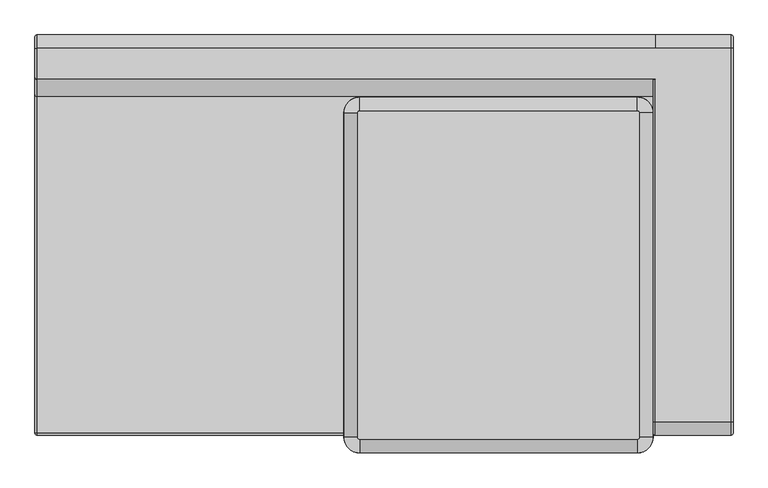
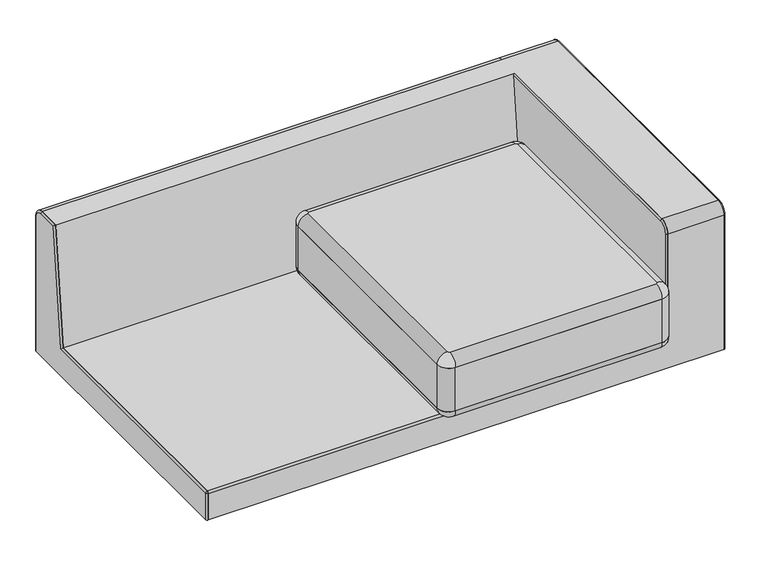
"""IFC4 building model written with IfcOpenShell, lengths in millimetres: furniture geometry, Sofa_Bensen_Neo_NEO25RIT : Sofa_Bensen_Neo_NEO25RIT."""

from ifc_helpers import new_model, si_unit, point, frame, frame_2d, origin, place, context, project, spatial, polyline, circle_curve, ellipse_curve, trimmed, segment, composite_curve, outline, extrude, source, transform, mapped, element, save
from ifc_brep_helpers import plane_surface, cylinder_surface, revolved_surface, advanced_brep


def furniture_131ba593(model_context):
    return source(origin(), model_context, "Body", "SolidModel", [
        advanced_brep(
        [(35.0, -490.001275, 289.4004127), (660.0, -490.001275, 289.4004127), (695.0, -455.001275, 289.4004127), (695.0, 274.998725, 289.4004127), (660.0, 309.998725, 289.4004127), (35.0, 309.998725, 289.4004127), (0.0, 274.998725, 289.4004127), (0.0, -455.001275, 289.4004127), (30.0, -455.001275, 259.4004127), (30.0, 274.998725, 259.4004127), (35.0, 279.998725, 259.4004127), (660.0, 279.998725, 259.4004127), (665.0, 274.998725, 259.4004127), (665.0, -455.001275, 259.4004127), (660.0, -460.001275, 259.4004127), (35.0, -460.001275, 259.4004127)],
        [
            (0, 1),
            (1, 2, circle_curve(frame((660.0, -455.001275, 289.4004127), z_axis=(0.0, 0.0, 1.0), x_axis=(0.0, -1.0, 0.0)), 35.0)),
            (2, 3),
            (3, 4, circle_curve(frame((660.0, 274.998725, 289.4004127), z_axis=(0.0, 0.0, 1.0), x_axis=(1.0, 0.0, 0.0)), 35.0)),
            (4, 5),
            (5, 6, circle_curve(frame((35.0, 274.998725, 289.4004127), z_axis=(0.0, 0.0, 1.0), x_axis=(0.0, 1.0, 0.0)), 35.0)),
            (6, 7),
            (7, 0, circle_curve(frame((35.0, -455.001275, 289.4004127), z_axis=(0.0, 0.0, 1.0), x_axis=(-1.0, 0.0, 0.0)), 35.0)),
            (8, 9),
            (9, 10, circle_curve(frame((35.0, 274.998725, 259.4004127), z_axis=(0.0, 0.0, -1.0), x_axis=(0.0, 1.0, 0.0)), 5.0)),
            (10, 11),
            (11, 12, circle_curve(frame((660.0, 274.998725, 259.4004127), z_axis=(0.0, 0.0, -1.0), x_axis=(1.0, 0.0, 0.0)), 5.0)),
            (12, 13),
            (13, 14, circle_curve(frame((660.0, -455.001275, 259.4004127), z_axis=(0.0, 0.0, -1.0), x_axis=(0.0, -1.0, 0.0)), 5.0)),
            (14, 15),
            (15, 8, circle_curve(frame((35.0, -455.001275, 259.4004127), z_axis=(0.0, 0.0, -1.0), x_axis=(-1.0, 0.0, 0.0)), 5.0)),
            (15, 0, circle_curve(frame((35.0, -460.001275, 289.4004127), z_axis=(-1.0, 0.0, 0.0), x_axis=(0.0, -1.0, 0.0)), 30.0)),
            (7, 8, circle_curve(frame((30.0, -455.001275, 289.4004127), z_axis=(0.0, -1.0, 0.0), x_axis=(-1.0, 0.0, 0.0)), 30.0)),
            (14, 1, circle_curve(frame((660.0, -460.001275, 289.4004127), z_axis=(-1.0, 0.0, 0.0), x_axis=(0.0, -1.0, 0.0)), 30.0)),
            (13, 2, circle_curve(frame((665.0, -455.001275, 289.4004127), z_axis=(0.0, -1.0, 0.0), x_axis=(1.0, 0.0, 0.0)), 30.0)),
            (12, 3, circle_curve(frame((665.0, 274.998725, 289.4004127), z_axis=(0.0, -1.0, 0.0), x_axis=(1.0, 0.0, 0.0)), 30.0)),
            (11, 4, circle_curve(frame((660.0, 279.998725, 289.4004127), z_axis=(1.0, 0.0, 0.0), x_axis=(0.0, 1.0, 0.0)), 30.0)),
            (10, 5, circle_curve(frame((35.0, 279.998725, 289.4004127), z_axis=(1.0, 0.0, 0.0), x_axis=(0.0, 1.0, 0.0)), 30.0)),
            (9, 6, circle_curve(frame((30.0, 274.998725, 289.4004127), z_axis=(0.0, 1.0, 0.0), x_axis=(-1.0, 0.0, 0.0)), 30.0)),
        ],
        [
            plane_surface(frame((35.0, 269.998725, 289.4004127), z_axis=(0.0, 0.0, 1.0), x_axis=(-1.0, 0.0, 0.0))),
            plane_surface(frame((35.0, 269.998725, 259.4004127), z_axis=(0.0, 0.0, -1.0), x_axis=(1.0, 0.0, 0.0))),
            revolved_surface(trimmed(ellipse_curve(frame((30.0, -455.001275, 289.4004127), z_axis=(0.0, -1.0, 0.0), x_axis=(-1.0, 0.0, 0.0)), 30.0, 30.0), [point((0.0, -455.001275, 289.4004127))], [point((30.0, -455.001275, 259.4004127))], True, "CARTESIAN"), (35.0, -455.001275, 289.4004127), (0.0, 0.0, -1.0)),
            cylinder_surface(frame((35.0, -460.001275, 289.4004127), z_axis=(-1.0, 0.0, 0.0), x_axis=(0.0, -1.0, 0.0)), 30.0),
            revolved_surface(trimmed(ellipse_curve(frame((660.0, -460.001275, 289.4004127), z_axis=(1.0, 0.0, 0.0), x_axis=(0.0, -1.0, 0.0)), 30.0, 30.0), [point((660.0, -490.001275, 289.4004127))], [point((660.0, -460.001275, 259.4004127))], True, "CARTESIAN"), (660.0, -455.001275, 289.4004127), (0.0, 0.0, -1.0)),
            cylinder_surface(frame((665.0, -455.001275, 289.4004127), z_axis=(0.0, -1.0, 0.0), x_axis=(1.0, 0.0, 0.0)), 30.0),
            revolved_surface(trimmed(ellipse_curve(frame((665.0, 274.998725, 289.4004127), z_axis=(0.0, 1.0, 0.0), x_axis=(1.0, 0.0, 0.0)), 30.0, 30.0), [point((695.0, 274.998725, 289.4004127))], [point((665.0, 274.998725, 259.4004127))], True, "CARTESIAN"), (660.0, 274.998725, 289.4004127), (0.0, 0.0, -1.0)),
            cylinder_surface(frame((660.0, 279.998725, 289.4004127), z_axis=(1.0, 0.0, 0.0), x_axis=(0.0, 1.0, 0.0)), 30.0),
            revolved_surface(trimmed(ellipse_curve(frame((35.0, 279.998725, 289.4004127), z_axis=(-1.0, 0.0, 0.0), x_axis=(0.0, 1.0, 0.0)), 30.0, 30.0), [point((35.0, 309.998725, 289.4004127))], [point((35.0, 279.998725, 259.4004127))], True, "CARTESIAN"), (35.0, 274.998725, 289.4004127), (0.0, 0.0, -1.0)),
            cylinder_surface(frame((30.0, 274.998725, 289.4004127), z_axis=(0.0, 1.0, 0.0), x_axis=(-1.0, 0.0, 0.0)), 30.0),
        ],
        [
            (0, [[1, 2, 3, 4, 5, 6, 7, 8]]),
            (1, [[9, 10, 11, 12, 13, 14, 15, 16]]),
            (2, [[-16, 17, -8, 18]]),
            (3, [[-15, 19, -1, -17]]),
            (4, [[-14, 20, -2, -19]]),
            (5, [[-13, 21, -3, -20]]),
            (6, [[-12, 22, -4, -21]]),
            (7, [[-11, 23, -5, -22]]),
            (8, [[-10, 24, -6, -23]]),
            (9, [[-7, -24, -9, -18]]),
        ],
    ),
        advanced_brep(
        [(35.0, -490.001275, 429.4004127), (35.0, -460.001275, 459.4004127), (30.0, -455.001275, 459.4004127), (0.0, -455.001275, 429.4004127), (660.0, -490.001275, 429.4004127), (660.0, -460.001275, 459.4004127), (695.0, -455.001275, 429.4004127), (665.0, -455.001275, 459.4004127), (695.0, 274.998725, 429.4004127), (665.0, 274.998725, 459.4004127), (660.0, 309.998725, 429.4004127), (660.0, 279.998725, 459.4004127), (35.0, 309.998725, 429.4004127), (35.0, 279.998725, 459.4004127), (0.0, 274.998725, 429.4004127), (30.0, 274.998725, 459.4004127)],
        [
            (0, 1, circle_curve(frame((35.0, -460.001275, 429.4004127), z_axis=(-1.0, 0.0, 0.0), x_axis=(0.0, -1.0, 0.0)), 30.0)),
            (1, 2, circle_curve(frame((35.0, -455.001275, 459.4004127), z_axis=(0.0, 0.0, -1.0), x_axis=(-1.0, 0.0, 0.0)), 5.0)),
            (2, 3, circle_curve(frame((30.0, -455.001275, 429.4004127), z_axis=(0.0, -1.0, 0.0), x_axis=(-1.0, 0.0, 0.0)), 30.0)),
            (3, 0, circle_curve(frame((35.0, -455.001275, 429.4004127), z_axis=(0.0, 0.0, 1.0), x_axis=(-1.0, 0.0, 0.0)), 35.0)),
            (0, 4),
            (4, 5, circle_curve(frame((660.0, -460.001275, 429.4004127), z_axis=(-1.0, 0.0, 0.0), x_axis=(0.0, -1.0, 0.0)), 30.0)),
            (5, 1),
            (4, 6, circle_curve(frame((660.0, -455.001275, 429.4004127), z_axis=(0.0, 0.0, 1.0), x_axis=(0.0, -1.0, 0.0)), 35.0)),
            (6, 7, circle_curve(frame((665.0, -455.001275, 429.4004127), z_axis=(0.0, -1.0, 0.0), x_axis=(1.0, 0.0, 0.0)), 30.0)),
            (7, 5, circle_curve(frame((660.0, -455.001275, 459.4004127), z_axis=(0.0, 0.0, -1.0), x_axis=(0.0, -1.0, 0.0)), 5.0)),
            (6, 8),
            (8, 9, circle_curve(frame((665.0, 274.998725, 429.4004127), z_axis=(0.0, -1.0, 0.0), x_axis=(1.0, 0.0, 0.0)), 30.0)),
            (9, 7),
            (8, 10, circle_curve(frame((660.0, 274.998725, 429.4004127), z_axis=(0.0, 0.0, 1.0), x_axis=(1.0, 0.0, 0.0)), 35.0)),
            (10, 11, circle_curve(frame((660.0, 279.998725, 429.4004127), z_axis=(1.0, 0.0, 0.0), x_axis=(0.0, 1.0, 0.0)), 30.0)),
            (11, 9, circle_curve(frame((660.0, 274.998725, 459.4004127), z_axis=(0.0, 0.0, -1.0), x_axis=(1.0, 0.0, 0.0)), 5.0)),
            (10, 12),
            (12, 13, circle_curve(frame((35.0, 279.998725, 429.4004127), z_axis=(1.0, 0.0, 0.0), x_axis=(0.0, 1.0, 0.0)), 30.0)),
            (13, 11),
            (12, 14, circle_curve(frame((35.0, 274.998725, 429.4004127), z_axis=(0.0, 0.0, 1.0), x_axis=(0.0, 1.0, 0.0)), 35.0)),
            (14, 15, circle_curve(frame((30.0, 274.998725, 429.4004127), z_axis=(0.0, 1.0, 0.0), x_axis=(-1.0, 0.0, 0.0)), 30.0)),
            (15, 13, circle_curve(frame((35.0, 274.998725, 459.4004127), z_axis=(0.0, 0.0, -1.0), x_axis=(0.0, 1.0, 0.0)), 5.0)),
            (2, 15),
            (14, 3),
        ],
        [
            revolved_surface(trimmed(ellipse_curve(frame((30.0, -455.001275, 429.4004127), z_axis=(0.0, -1.0, 0.0), x_axis=(-1.0, 0.0, 0.0)), 30.0, 30.0), [point((30.0, -455.001275, 459.4004127))], [point((0.0, -455.001275, 429.4004127))], True, "CARTESIAN"), (35.0, -455.001275, 259.4004127), (0.0, 0.0, -1.0)),
            cylinder_surface(frame((35.0, -460.001275, 429.4004127), z_axis=(-1.0, 0.0, 0.0), x_axis=(0.0, -1.0, 0.0)), 30.0),
            revolved_surface(trimmed(ellipse_curve(frame((660.0, -460.001275, 429.4004127), z_axis=(1.0, 0.0, 0.0), x_axis=(0.0, -1.0, 0.0)), 30.0, 30.0), [point((660.0, -460.001275, 459.4004127))], [point((660.0, -490.001275, 429.4004127))], True, "CARTESIAN"), (660.0, -455.001275, 259.4004127), (0.0, 0.0, -1.0)),
            cylinder_surface(frame((665.0, -455.001275, 429.4004127), z_axis=(0.0, -1.0, 0.0), x_axis=(1.0, 0.0, 0.0)), 30.0),
            revolved_surface(trimmed(ellipse_curve(frame((665.0, 274.998725, 429.4004127), z_axis=(0.0, 1.0, 0.0), x_axis=(1.0, 0.0, 0.0)), 30.0, 30.0), [point((665.0, 274.998725, 459.4004127))], [point((695.0, 274.998725, 429.4004127))], True, "CARTESIAN"), (660.0, 274.998725, 259.4004127), (0.0, 0.0, -1.0)),
            cylinder_surface(frame((660.0, 279.998725, 429.4004127), z_axis=(1.0, 0.0, 0.0), x_axis=(0.0, 1.0, 0.0)), 30.0),
            revolved_surface(trimmed(ellipse_curve(frame((35.0, 279.998725, 429.4004127), z_axis=(-1.0, 0.0, 0.0), x_axis=(0.0, 1.0, 0.0)), 30.0, 30.0), [point((35.0, 279.998725, 459.4004127))], [point((35.0, 309.998725, 429.4004127))], True, "CARTESIAN"), (35.0, 274.998725, 259.4004127), (0.0, 0.0, -1.0)),
            cylinder_surface(frame((30.0, 274.998725, 429.4004127), z_axis=(0.0, 1.0, 0.0), x_axis=(-1.0, 0.0, 0.0)), 30.0),
            plane_surface(frame((0.0, 274.998725, 429.4004127), z_axis=(0.0, 0.0, -1.0), x_axis=(0.0, -1.0, 0.0))),
            plane_surface(frame((35.0, 269.998725, 459.4004127), z_axis=(0.0, 0.0, 1.0), x_axis=(-1.0, 0.0, 0.0))),
        ],
        [
            (0, [[1, 2, 3, 4]]),
            (1, [[5, 6, 7, -1]]),
            (2, [[8, 9, 10, -6]]),
            (3, [[11, 12, 13, -9]]),
            (4, [[14, 15, 16, -12]]),
            (5, [[17, 18, 19, -15]]),
            (6, [[20, 21, 22, -18]]),
            (7, [[23, -21, 24, -3]]),
            (8, [[-24, -20, -17, -14, -11, -8, -5, -4]]),
            (9, [[-7, -10, -13, -16, -19, -22, -23, -2]]),
        ],
    ),
        extrude(outline(composite_curve([segment(trimmed(circle_curve(frame_2d((35.0, 274.998725)), 35.0), [point((0.0, 274.998725))], [point((35.0, 309.998725))], False, "CARTESIAN"), True, "CONTINUOUS"), segment(polyline([(35.0, 309.998725), (660.0, 309.998725)]), True, "CONTINUOUS"), segment(trimmed(circle_curve(frame_2d((660.0, 274.998725)), 35.0), [point((660.0, 309.998725))], [point((695.0, 274.998725))], False, "CARTESIAN"), True, "CONTINUOUS"), segment(polyline([(695.0, 274.998725), (695.0, -455.001275)]), True, "CONTINUOUS"), segment(trimmed(circle_curve(frame_2d((660.0, -455.001275)), 35.0), [point((695.0, -455.001275))], [point((660.0, -490.001275))], False, "CARTESIAN"), True, "CONTINUOUS"), segment(polyline([(660.0, -490.001275), (35.0, -490.001275)]), True, "CONTINUOUS"), segment(trimmed(circle_curve(frame_2d((35.0, -455.001275)), 35.0), [point((35.0, -490.001275))], [point((0.0, -455.001275))], False, "CARTESIAN"), True, "CONTINUOUS"), segment(polyline([(0.0, -455.001275), (0.0, 274.998725)]), True, "CONTINUOUS")], self_intersect=False)), frame((0.0, 0.0, 289.4004127), z_axis=(0.0, 0.0, 1.0), x_axis=(1.0, 0.0, 0.0)), (0.0, 0.0, 1.0), 140.0),
        advanced_brep(
        [(-690.0, 349.998725, 629.5427565), (-690.0, 419.998725, 629.5427565), (-690.0, 449.998725, 599.5427565), (-690.0, 449.998725, 169.9987249), (-690.0, -449.9987249, 170.0), (-690.0, -449.9987249, 253.4004127), (-690.0, -443.9987249, 259.4004127), (-690.0, 311.095197, 259.4004127), (699.9999999, 349.998725, 629.5427565), (699.9999999, -419.9987249, 629.5427565), (869.9999999, -419.9987249, 629.5427565), (869.9999999, 419.998725, 629.5427565), (699.9999999, 419.998725, 629.5427565), (699.9999999, 449.998725, 599.5427565), (869.9999999, 449.998725, 599.5427565), (869.9999999, 449.998725, 170.0), (869.9999999, -449.9987249, 169.9987249), (699.9999999, 311.095197, 259.4004127), (699.9999999, -449.9987249, 599.5427565), (699.9999999, -443.9987249, 259.4004127), (699.9999999, -449.9987249, 253.4004127), (869.9999999, -449.9987249, 599.5427565)],
        [
            (0, 1),
            (1, 2, circle_curve(frame((-690.0, 419.998725, 599.5427565), z_axis=(-1.0, 0.0, 0.0), x_axis=(0.0, -1.0, 0.0)), 30.0)),
            (2, 3),
            (3, 4),
            (4, 5),
            (5, 6, circle_curve(frame((-690.0, -443.9987249, 253.4004127), z_axis=(-1.0, 0.0, 0.0), x_axis=(0.0, 0.0, 1.0)), 6.0)),
            (6, 7),
            (7, 0),
            (0, 8),
            (8, 9),
            (9, 10),
            (10, 11),
            (11, 12),
            (12, 1),
            (2, 13),
            (13, 14),
            (14, 15),
            (15, 3),
            (15, 16),
            (16, 4),
            (7, 17),
            (17, 8),
            (12, 13, circle_curve(frame((699.9999999, 419.998725, 599.5427565), z_axis=(-1.0, 0.0, 0.0), x_axis=(0.0, -1.0, 0.0)), 30.0)),
            (18, 9, circle_curve(frame((699.9999999, -419.9987249, 599.5427565), z_axis=(-1.0, 0.0, 0.0), x_axis=(0.0, -1.0, 0.0)), 30.0)),
            (17, 19),
            (19, 20, circle_curve(frame((699.9999999, -443.9987249, 253.4004127), z_axis=(1.0, 0.0, 0.0), x_axis=(0.0, 0.0, 1.0)), 6.0)),
            (20, 18),
            (10, 21, circle_curve(frame((869.9999999, -419.9987249, 599.5427565), z_axis=(1.0, 0.0, 0.0), x_axis=(0.0, -1.0, 0.0)), 30.0)),
            (21, 16),
            (14, 11, circle_curve(frame((869.9999999, 419.998725, 599.5427565), z_axis=(1.0, 0.0, 0.0), x_axis=(0.0, -1.0, 0.0)), 30.0)),
            (18, 21),
            (20, 5),
            (6, 19),
        ],
        [
            plane_surface(frame((-690.0, 349.998725, 629.5427565), z_axis=(-1.0000000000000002, 0.0, 0.0), x_axis=(0.0, 0.10452846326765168, 0.9945218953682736))),
            plane_surface(frame((699.9999999, 419.998725, 629.5427565), z_axis=(0.0, 0.0, 1.0), x_axis=(-1.0, 0.0, 0.0))),
            plane_surface(frame((699.9999999, 449.998725, 169.9987249), z_axis=(0.0, 1.0, 0.0), x_axis=(-1.0, 0.0, 0.0))),
            plane_surface(frame((699.9999999, 301.698701, 169.9987249), z_axis=(0.0, 0.0, -1.0), x_axis=(-1.0, 0.0, 0.0))),
            plane_surface(frame((699.9999999, 349.998725, 629.5427565), z_axis=(0.0, -0.9945218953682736, 0.10452846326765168), x_axis=(-1.0, 0.0, 0.0))),
            cylinder_surface(frame((-690.0, 419.998725, 599.5427565), z_axis=(1.0, 0.0, 0.0), x_axis=(0.0, -1.0, 0.0)), 30.0),
            plane_surface(frame((699.9999999, 449.998725, 629.5427565), z_axis=(-1.0, 0.0, 0.0), x_axis=(0.0, 1.0, 0.0))),
            plane_surface(frame((869.9999999, 449.998725, 629.5427565), z_axis=(1.0, 0.0, 0.0), x_axis=(0.0, -1.0, 0.0))),
            cylinder_surface(frame((869.9999999, -419.9987249, 599.5427565), z_axis=(-1.0, 0.0, 0.0), x_axis=(0.0, -1.0, 0.0)), 30.0),
            plane_surface(frame((699.9999999, -449.9987249, 170.0), z_axis=(0.0, -1.0, 0.0), x_axis=(1.0, 0.0, 0.0))),
            cylinder_surface(frame((869.9999999, 419.998725, 599.5427565), z_axis=(-1.0, 0.0, 0.0), x_axis=(0.0, -1.0, 0.0)), 30.0),
            plane_surface(frame((-690.0, -443.9987249, 259.4004127), z_axis=(0.0, 0.0, 1.0), x_axis=(1.0, 0.0, 0.0))),
            cylinder_surface(frame((699.9999999, -443.9987249, 253.4004127), z_axis=(-1.0, 0.0, 0.0), x_axis=(0.0, 0.0, 1.0)), 6.0),
        ],
        [
            (0, [[1, 2, 3, 4, 5, 6, 7, 8]]),
            (1, [[-1, 9, 10, 11, 12, 13, 14]]),
            (2, [[-3, 15, 16, 17, 18]]),
            (3, [[-4, -18, 19, 20]]),
            (4, [[-9, -8, 21, 22]]),
            (5, [[-2, -14, 23, -15]]),
            (6, [[24, -10, -22, 25, 26, 27]]),
            (7, [[28, 29, -19, -17, 30, -12]]),
            (8, [[-24, 31, -28, -11]]),
            (9, [[-20, -29, -31, -27, 32, -5]]),
            (10, [[-30, -16, -23, -13]]),
            (11, [[-7, 33, -25, -21]]),
            (12, [[-6, -32, -26, -33]]),
        ],
    ),
        advanced_brep(
        [(-695.0, 444.998725, 170.0), (-690.0, 449.998725, 170.0), (-690.0, -449.9987249, 170.0), (-695.0, -444.9987249, 170.0), (-690.0, 349.998725, 629.5427565), (-695.0, 354.5007452, 624.5427565), (-695.0, 315.5972172, 254.4004127), (-690.0, 311.095197, 259.4004127), (-695.0, -443.9987249, 254.4004127), (-690.0, -443.9987249, 259.4004127), (-690.0, -449.9987249, 253.4004127), (-695.0, -444.9987249, 253.4004127), (-690.0, 449.998725, 599.5427565), (-690.0, 419.998725, 629.5427565), (-695.0, 444.998725, 599.5427565), (-695.0, 419.998725, 624.5427565)],
        [
            (0, 1, circle_curve(frame((-690.0, 444.998725, 170.0), z_axis=(0.0, 0.0, -1.0), x_axis=(-1.0, 0.0, 0.0)), 5.0)),
            (1, 2),
            (2, 3, circle_curve(frame((-690.0, -444.9987249, 170.0), z_axis=(0.0, 0.0, -1.0), x_axis=(-1.0, 0.0, 0.0)), 5.0)),
            (3, 0),
            (4, 5, ellipse_curve(frame((-690.0, 354.5007452, 624.5427565), z_axis=(0.0, -0.7431448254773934, -0.6691306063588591), x_axis=(0.0, -0.669130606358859, 0.7431448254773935)), 6.7281636, 5.0)),
            (5, 6),
            (6, 7, ellipse_curve(frame((-690.0, 315.5972172, 254.4004127), z_axis=(0.0, 0.7431448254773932, 0.6691306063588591), x_axis=(0.0, -0.669130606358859, 0.7431448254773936)), 6.7281636, 5.0)),
            (7, 4),
            (6, 8),
            (8, 9, circle_curve(frame((-690.0, -443.9987249, 254.4004127), z_axis=(0.0, 1.0, 0.0), x_axis=(-1.0, 0.0, 0.0)), 5.0)),
            (9, 7),
            (10, 11, circle_curve(frame((-690.0, -444.9987249, 253.4004127), z_axis=(0.0, 0.0, -1.0), x_axis=(-1.0, 0.0, 0.0)), 5.0)),
            (11, 3),
            (2, 10),
            (1, 12),
            (12, 13, circle_curve(frame((-690.0, 419.998725, 599.5427565), z_axis=(1.0, 0.0, 0.0), x_axis=(0.0, 1.0, 0.0)), 30.0)),
            (13, 4),
            (9, 10, circle_curve(frame((-690.0, -443.9987249, 253.4004127), z_axis=(1.0, 0.0, 0.0), x_axis=(0.0, 0.0, 1.0)), 6.0)),
            (0, 14),
            (14, 12, circle_curve(frame((-690.0, 444.998725, 599.5427565), z_axis=(0.0, 0.0, -1.0), x_axis=(-1.0, 0.0, 0.0)), 5.0)),
            (14, 15, circle_curve(frame((-695.0, 419.998725, 599.5427565), z_axis=(1.0, 0.0, 0.0), x_axis=(0.0, 1.0, 0.0)), 25.0)),
            (15, 13, circle_curve(frame((-690.0, 419.998725, 624.5427565), z_axis=(0.0, 1.0, 0.0), x_axis=(-1.0, 0.0, 0.0)), 5.0)),
            (15, 5),
            (8, 11, circle_curve(frame((-695.0, -443.9987249, 253.4004127), z_axis=(1.0, 0.0, 0.0), x_axis=(0.0, 0.0, 1.0)), 1.0)),
        ],
        [
            plane_surface(frame((-695.0000001, 449.998725, 170.0), z_axis=(0.0, 0.0, -1.0), x_axis=(-1.0, 0.0, 0.0))),
            cylinder_surface(frame((-690.0, 354.9713345, 629.0201142), z_axis=(0.0, 0.10452846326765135, 0.9945218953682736), x_axis=(-1.0, 0.0, 0.0)), 5.0),
            cylinder_surface(frame((-690.0, 311.095197, 254.4004127), z_axis=(0.0, 1.0, 0.0), x_axis=(-1.0, 0.0, 0.0)), 5.0),
            cylinder_surface(frame((-690.0, -444.9987249, 253.4004127), z_axis=(0.0, 0.0, 1.0), x_axis=(-1.0, 0.0, 0.0)), 5.0),
            plane_surface(frame((-690.0, 449.998725, 170.0), z_axis=(1.0, 1.9626966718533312e-12, 0.0), x_axis=(0.0, 0.0, 1.0))),
            cylinder_surface(frame((-690.0, 444.998725, 170.0), z_axis=(0.0, 0.0, -1.0), x_axis=(-1.0, 0.0, 0.0)), 5.0),
            revolved_surface(trimmed(ellipse_curve(frame((-690.0, 444.998725, 599.5427565), z_axis=(0.0, 0.0, -1.0), x_axis=(-1.0, 0.0, 0.0)), 5.0, 5.0), [point((-695.0, 444.998725, 599.5427565))], [point((-690.0, 449.998725, 599.5427565))], True, "CARTESIAN"), (-695.0000001, 419.998725, 599.5427565), (1.0, 0.0, 0.0)),
            cylinder_surface(frame((-690.0, 419.998725, 624.5427565), z_axis=(0.0, 1.0, 0.0), x_axis=(-1.0, 0.0, 0.0)), 5.0),
            revolved_surface(trimmed(ellipse_curve(frame((-690.0, -443.9987249, 254.4004127), z_axis=(0.0, 1.0, 0.0), x_axis=(-1.0, 0.0, 0.0)), 5.0, 5.0), [point((-695.0, -443.9987249, 254.4004127))], [point((-690.0, -443.9987249, 259.4004127))], True, "CARTESIAN"), (-695.0000001, -443.9987249, 253.4004127), (1.0, 0.0, 0.0)),
            plane_surface(frame((-695.0, 444.998725, 599.5427565), z_axis=(-1.0, 0.0, 0.0), x_axis=(0.0, 0.0, -1.0))),
        ],
        [
            (0, [[1, 2, 3, 4]]),
            (1, [[5, 6, 7, 8]]),
            (2, [[-7, 9, 10, 11]]),
            (3, [[12, 13, -3, 14]]),
            (4, [[-2, 15, 16, 17, -8, -11, 18, -14]]),
            (5, [[-1, 19, 20, -15]]),
            (6, [[-16, -20, 21, 22]]),
            (7, [[-5, -17, -22, 23]]),
            (8, [[-10, 24, -12, -18]]),
            (9, [[-4, -13, -24, -9, -6, -23, -21, -19]]),
        ],
    ),
        advanced_brep(
        [(699.9999999, -444.9987249, 259.4004127), (699.9999999, 349.998725, 259.4004127), (699.9999999, 349.998725, 629.5427565), (699.9999999, -419.9987249, 629.5427565), (699.9999999, -449.9987249, 599.5427565), (699.9999999, -449.9987249, 170.0), (699.9999999, -444.9987249, 170.0), (695.0, 349.998725, 624.5427565), (695.0, 349.998725, 259.4004127), (695.0, -444.9987249, 259.4004127), (695.0, -444.9987249, 599.5427565), (695.0, -419.9987249, 624.5427565), (694.9999999, -444.9987249, 170.0)],
        [
            (0, 1),
            (1, 2),
            (2, 3),
            (3, 4, circle_curve(frame((699.9999999, -419.9987249, 599.5427565), z_axis=(1.0, 0.0, 0.0), x_axis=(0.0, 0.0, 1.0)), 30.0)),
            (4, 5),
            (5, 6),
            (6, 0),
            (7, 8),
            (8, 9),
            (9, 10),
            (10, 11, circle_curve(frame((695.0, -419.9987249, 599.5427565), z_axis=(-1.0, 0.0, 0.0), x_axis=(0.0, 0.0, 1.0)), 25.0)),
            (11, 7),
            (0, 9),
            (8, 1),
            (7, 2, circle_curve(frame((699.9999999, 349.998725, 624.5427565), z_axis=(0.0, 1.0, 0.0), x_axis=(0.0, 0.0, 1.0)), 5.0)),
            (11, 3, circle_curve(frame((699.9999999, -419.9987249, 624.5427565), z_axis=(0.0, 1.0, 0.0), x_axis=(0.0, 0.0, 1.0)), 5.0)),
            (10, 4, circle_curve(frame((699.9999999, -444.9987249, 599.5427565), z_axis=(0.0, 0.0, 1.0), x_axis=(0.0, -1.0, 0.0)), 5.0)),
            (5, 12, circle_curve(frame((699.9999999, -444.9987249, 170.0), z_axis=(0.0, 0.0, -1.0), x_axis=(0.0, -1.0, 0.0)), 5.0)),
            (12, 6),
            (12, 9),
        ],
        [
            plane_surface(frame((699.9999999, -394.9987249, 599.5427565), z_axis=(1.0, 0.0, 0.0), x_axis=(0.0, 0.0, 1.0))),
            plane_surface(frame((695.0, -394.9987249, 599.5427565), z_axis=(-1.0, 0.0, 0.0), x_axis=(0.0, 0.0, -1.0))),
            plane_surface(frame((699.9999999, -444.9987249, 259.4004127), z_axis=(0.0, 0.0, -1.0), x_axis=(-1.0, 0.0, 0.0))),
            plane_surface(frame((699.9999999, 349.998725, 259.4004127), z_axis=(0.0, 1.0, 0.0), x_axis=(-1.0, 0.0, 0.0))),
            cylinder_surface(frame((699.9999999, 349.998725, 624.5427565), z_axis=(0.0, 1.0, 0.0), x_axis=(0.0, 0.0, 1.0)), 5.0),
            revolved_surface(trimmed(ellipse_curve(frame((699.9999999, -419.9987249, 624.5427565), z_axis=(0.0, 1.0, 0.0), x_axis=(0.0, 0.0, 1.0)), 5.0, 5.0), [point((694.9999999, -419.9987249, 624.5427565))], [point((699.9999999, -419.9987249, 629.5427565))], True, "CARTESIAN"), (389.9999999, -419.9987249, 599.5427565), (1.0, 0.0, 0.0)),
            plane_surface(frame((389.9999999, -449.9987249, 170.0), z_axis=(0.0, 0.0, -1.0), x_axis=(1.0, 0.0, 0.0))),
            plane_surface(frame((699.9999999, -444.9987249, 599.5427565), z_axis=(0.0, 1.0, 0.0), x_axis=(0.0, 0.0, -1.0))),
            cylinder_surface(frame((699.9999999, -444.9987249, 599.5427565), z_axis=(0.0, 0.0, 1.0), x_axis=(0.0, -1.0, 0.0)), 5.0),
        ],
        [
            (0, [[1, 2, 3, 4, 5, 6, 7]]),
            (1, [[8, 9, 10, 11, 12]]),
            (2, [[-1, 13, -9, 14]]),
            (3, [[-2, -14, -8, 15]]),
            (4, [[-15, -12, 16, -3]]),
            (5, [[-16, -11, 17, -4]]),
            (6, [[-6, 18, 19]]),
            (7, [[-19, 20, -13, -7]]),
            (8, [[-5, -17, -10, -20, -18]]),
        ],
    ),
        advanced_brep(
        [(869.9999999, -449.9987249, 170.0), (869.9999999, -449.9987249, 599.5427565), (869.9999999, -419.9987249, 629.5427565), (869.9999999, 419.998725, 629.5427565), (869.9999999, 449.998725, 599.5427565), (869.9999999, 449.998725, 170.0), (874.9999999, -444.9987249, 170.0), (874.9999999, 444.998725, 170.0), (874.9999999, 444.998725, 599.5427565), (874.9999999, 419.998725, 624.5427565), (874.9999999, -419.9987249, 624.5427565), (874.9999999, -444.9987249, 599.5427565)],
        [
            (0, 1),
            (1, 2, circle_curve(frame((869.9999999, -419.9987249, 599.5427565), z_axis=(-1.0, 0.0, 0.0), x_axis=(0.0, 0.0, 1.0)), 30.0)),
            (2, 3),
            (3, 4, circle_curve(frame((869.9999999, 419.998725, 599.5427565), z_axis=(-1.0, 0.0, 0.0), x_axis=(0.0, 1.0, 0.0)), 30.0)),
            (4, 5),
            (5, 0),
            (6, 7),
            (7, 8),
            (8, 9, circle_curve(frame((874.9999999, 419.998725, 599.5427565), z_axis=(1.0, 0.0, 0.0), x_axis=(0.0, 1.0, 0.0)), 25.0)),
            (9, 10),
            (10, 11, circle_curve(frame((874.9999999, -419.9987249, 599.5427565), z_axis=(1.0, 0.0, 0.0), x_axis=(0.0, 0.0, 1.0)), 25.0)),
            (11, 6),
            (5, 7, circle_curve(frame((869.9999999, 444.998725, 170.0), z_axis=(0.0, 0.0, -1.0), x_axis=(-1.0, 0.0, 0.0)), 5.0)),
            (6, 0, circle_curve(frame((869.9999999, -444.9987249, 170.0), z_axis=(0.0, 0.0, -1.0), x_axis=(-1.0, 0.0, 0.0)), 5.0)),
            (9, 3, circle_curve(frame((869.9999999, 419.998725, 624.5427565), z_axis=(0.0, -1.0, 0.0), x_axis=(-1.0, 0.0, 0.0)), 5.0)),
            (2, 10, circle_curve(frame((869.9999999, -419.9987249, 624.5427565), z_axis=(0.0, 1.0, 0.0), x_axis=(-1.0, 0.0, 0.0)), 5.0)),
            (1, 11, circle_curve(frame((869.9999999, -444.9987249, 599.5427565), z_axis=(0.0, 0.0, 1.0), x_axis=(-1.0, 0.0, 0.0)), 5.0)),
            (4, 8, circle_curve(frame((869.9999999, 444.998725, 599.5427565), z_axis=(0.0, 0.0, -1.0), x_axis=(-1.0, 0.0, 0.0)), 5.0)),
        ],
        [
            plane_surface(frame((869.9999999, 444.998725, 599.5427565), z_axis=(-1.0, 0.0, 0.0), x_axis=(0.0, 0.0, -1.0))),
            plane_surface(frame((874.9999999, 444.998725, 599.5427565), z_axis=(1.0, 0.0, 0.0), x_axis=(0.0, 0.0, 1.0))),
            plane_surface(frame((869.9999999, 444.998725, 170.0), z_axis=(0.0, 0.0, -1.0), x_axis=(1.0, 0.0, 0.0))),
            cylinder_surface(frame((869.9999999, 419.998725, 624.5427565), z_axis=(0.0, 1.0, 0.0), x_axis=(-1.0, 0.0, 0.0)), 5.0),
            revolved_surface(trimmed(ellipse_curve(frame((869.9999999, -419.9987249, 624.5427565), z_axis=(0.0, 1.0, 0.0), x_axis=(-1.0, 0.0, 0.0)), 5.0, 5.0), [point((869.9999999, -419.9987249, 629.5427565))], [point((874.9999999, -419.9987249, 624.5427565))], True, "CARTESIAN"), (389.9999999, -419.9987249, 599.5427565), (1.0, 0.0, 0.0)),
            cylinder_surface(frame((869.9999999, -444.9987249, 599.5427565), z_axis=(0.0, 0.0, 1.0), x_axis=(-1.0, 0.0, 0.0)), 5.0),
            cylinder_surface(frame((869.9999999, 444.998725, 170.0), z_axis=(0.0, 0.0, -1.0), x_axis=(-1.0, 0.0, 0.0)), 5.0),
            revolved_surface(trimmed(ellipse_curve(frame((869.9999999, 444.998725, 599.5427565), z_axis=(0.0, 0.0, -1.0), x_axis=(-1.0, 0.0, 0.0)), 5.0, 5.0), [point((869.9999999, 449.998725, 599.5427565))], [point((874.9999999, 444.998725, 599.5427565))], True, "CARTESIAN"), (389.9999999, 419.998725, 599.5427565), (1.0, 0.0, 0.0)),
        ],
        [
            (0, [[1, 2, 3, 4, 5, 6]]),
            (1, [[7, 8, 9, 10, 11, 12]]),
            (2, [[-6, 13, -7, 14]]),
            (3, [[15, -3, 16, -10]]),
            (4, [[-16, -2, 17, -11]]),
            (5, [[-17, -1, -14, -12]]),
            (6, [[-13, -5, 18, -8]]),
            (7, [[-15, -9, -18, -4]]),
        ],
    ),
    ])


if __name__ == "__main__":
    model = new_model("IFC4")
    model_context = context("Model", 3, world=origin())
    ifc_project = project(units=[si_unit("LENGTHUNIT", "METRE", prefix="MILLI")], contexts=[model_context])
    site = spatial("IfcSite", under=ifc_project)
    building = spatial("IfcBuilding", under=site)
    placement = place(None, origin())
    furniture_shape = furniture_131ba593(model_context)
    element("IfcFurniture", 1, ObjectType="Sofa_Bensen_Neo_NEO25RIT : Sofa_Bensen_Neo_NEO25RIT", at=placement, inside=building, context=model_context, shape_type="MappedRepresentation", body=[
        mapped(furniture_shape, transform((0.0, 0.0, 0.0), x_axis=(1.0, 0.0, 0.0), y_axis=(0.0, 1.0, 0.0), z_axis=(0.0, 0.0, 1.0))),
    ])
    save(model, "model.ifc")
